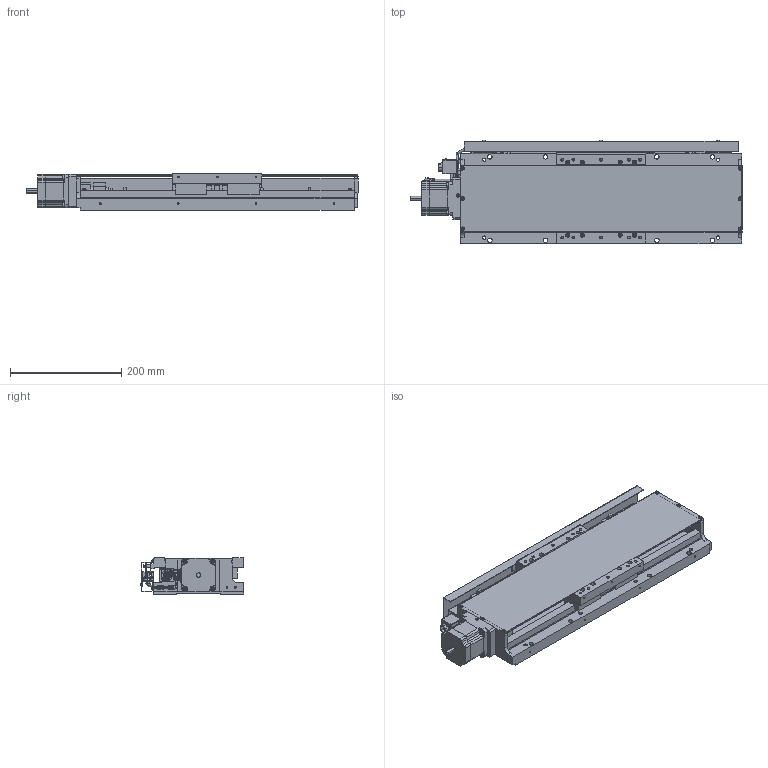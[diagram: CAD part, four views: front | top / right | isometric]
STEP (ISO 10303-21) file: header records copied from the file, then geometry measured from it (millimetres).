
FILE_DESCRIPTION (( 'STEP AP203' ), '1' );
FILE_NAME ('XA16F-L2301-R.STEP', '2019-03-07T04:00:44', ( '' ), ( '' ), 'SwSTEP 2.0', 'SolidWorks 2018', '' );
FILE_SCHEMA (( 'CONFIG_CONTROL_DESIGN' ));
Length unit declared in the file: millimetre
Products named in the file (3): XA16F-L2301-R; base; table
Assembly tree (2 placements, depth 2):
  XA16F-L2301-R
    table
    base
Bounding box: 596.5 x 185.89 x 65 mm (x, y, z)
Volume: 2756093 mm3; surface area: 635139.9 mm2
Topology: 2 solids, 6 shells, 2682 faces, 6607 edges, 4082 vertices
Faces by surface type: plane 1581, cylinder 665, cone 348, torus 36, sphere 32, bspline 20
Entity records: 79635 total; most frequent: CARTESIAN_POINT 14851, DIRECTION 13904, ORIENTED_EDGE 13026, EDGE_CURVE 6513, AXIS2_PLACEMENT_3D 4869, VECTOR 4166, LINE 4166, VERTEX_POINT 4082
